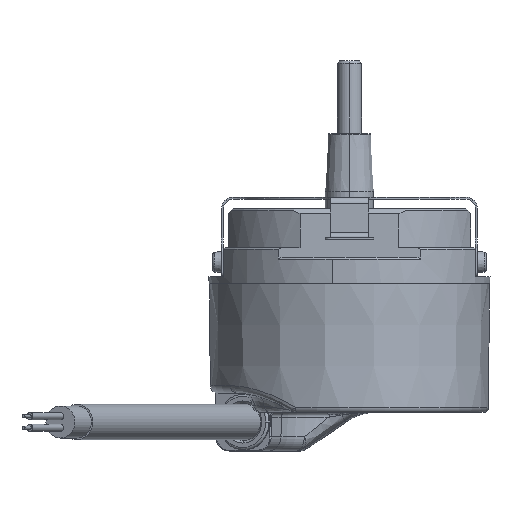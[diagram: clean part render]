
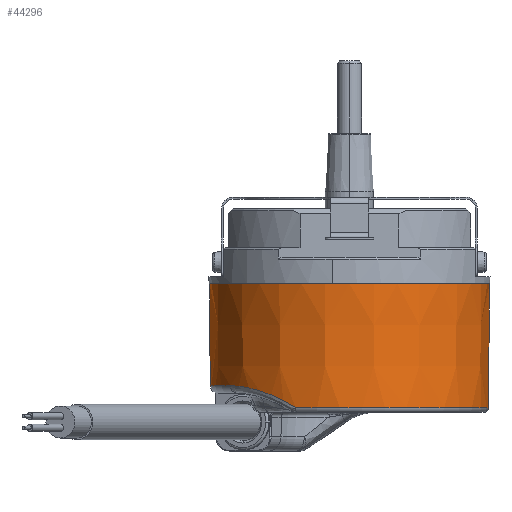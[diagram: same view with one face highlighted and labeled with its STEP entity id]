
A CAD part, left-side view. The second image highlights one B-rep face of the part: STEP entity #44296.
In plain terms, the highlighted conical face has half-angle 0.5 degrees and reference radius 29 mm.
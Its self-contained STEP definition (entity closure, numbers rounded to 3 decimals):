
#1183 = EDGE_CURVE ( 'NONE', #5836, #19278, #87363, .T. ) ;
#4397 = CARTESIAN_POINT ( 'NONE',  ( 0., 29., 19. ) ) ;
#5836 = VERTEX_POINT ( 'NONE', #47061 ) ;
#6390 = CARTESIAN_POINT ( 'NONE',  ( 0., 0., -18.009 ) ) ;
#11009 = EDGE_LOOP ( 'NONE', ( #22611, #80948, #88995, #95748, #36894, #33223 ) ) ;
#13164 = EDGE_CURVE ( 'NONE', #19278, #92280, #76114, .T. ) ;
#13237 = LINE ( 'NONE', #4397, #55265 ) ;
#14376 = DIRECTION ( 'NONE',  ( 0., 1., 0. ) ) ;
#16106 = FACE_OUTER_BOUND ( 'NONE', #11009, .T. ) ;
#16780 = AXIS2_PLACEMENT_3D ( 'NONE', #27699, #82775, #35619 ) ;
#16981 = DIRECTION ( 'NONE',  ( 0., -0.009, 1. ) ) ;
#19278 = VERTEX_POINT ( 'NONE', #54227 ) ;
#21353 = AXIS2_PLACEMENT_3D ( 'NONE', #64503, #56239, #56917 ) ;
#21704 = DIRECTION ( 'NONE',  ( 0., 0., 1. ) ) ;
#22526 = CARTESIAN_POINT ( 'NONE',  ( 0., -28.9, 7.5 ) ) ;
#22611 = ORIENTED_EDGE ( 'NONE', *, *, #53077, .F. ) ;
#24715 = CONICAL_SURFACE ( 'NONE', #21353, 29., 0.009 ) ;
#27684 = CARTESIAN_POINT ( 'NONE',  ( 0., 28.716, -13.513 ) ) ;
#27699 = CARTESIAN_POINT ( 'NONE',  ( 0., 0., 7.5 ) ) ;
#33223 = ORIENTED_EDGE ( 'NONE', *, *, #59772, .F. ) ;
#33282 = EDGE_CURVE ( 'NONE', #92280, #51071, #42381, .T. ) ;
#35619 = DIRECTION ( 'NONE',  ( 0., -1., 0. ) ) ;
#36894 = ORIENTED_EDGE ( 'NONE', *, *, #33282, .T. ) ;
#40279 = CARTESIAN_POINT ( 'NONE',  ( -16.214, 23.753, -13.513 ) ) ;
#40962 = CARTESIAN_POINT ( 'NONE',  ( -17.481, 22.835, -13.587 ) ) ;
#41432 = CARTESIAN_POINT ( 'NONE',  ( -14.863, 24.57, -13.513 ) ) ;
#41527 = CARTESIAN_POINT ( 'NONE',  ( -18.961, 21.566, -13.798 ) ) ;
#41550 = CARTESIAN_POINT ( 'NONE',  ( -19.252, 21.306, -13.846 ) ) ;
#41769 = CARTESIAN_POINT ( 'NONE',  ( -19.823, 20.775, -13.955 ) ) ;
#41866 = CIRCLE ( 'NONE', #49365, 28.716 ) ;
#41986 = CARTESIAN_POINT ( 'NONE',  ( -20.104, 20.503, -14.016 ) ) ;
#42381 = LINE ( 'NONE', #56346, #84273 ) ;
#43253 = CARTESIAN_POINT ( 'NONE',  ( -20.921, 19.677, -14.216 ) ) ;
#43491 = CARTESIAN_POINT ( 'NONE',  ( -21.435, 19.112, -14.374 ) ) ;
#44161 = CARTESIAN_POINT ( 'NONE',  ( -22.895, 17.379, -14.923 ) ) ;
#44296 = ADVANCED_FACE ( 'NONE', ( #16106 ), #24715, .T. ) ;
#44478 = CARTESIAN_POINT ( 'NONE',  ( -23.755, 16.172, -15.389 ) ) ;
#44958 = CARTESIAN_POINT ( 'NONE',  ( -24.887, 14.297, -16.255 ) ) ;
#45659 = EDGE_CURVE ( 'NONE', #79432, #5836, #41866, .T. ) ;
#45841 = CARTESIAN_POINT ( 'NONE',  ( -25.238, 13.661, -16.572 ) ) ;
#46318 = CARTESIAN_POINT ( 'NONE',  ( -25.877, 12.394, -17.253 ) ) ;
#46866 = CARTESIAN_POINT ( 'NONE',  ( -26.167, 11.76, -17.619 ) ) ;
#47001 = CARTESIAN_POINT ( 'NONE',  ( -26.431, 11.126, -18.009 ) ) ;
#47061 = CARTESIAN_POINT ( 'NONE',  ( -14.863, 24.57, -13.513 ) ) ;
#49365 = AXIS2_PLACEMENT_3D ( 'NONE', #68927, #21704, #76886 ) ;
#51071 = VERTEX_POINT ( 'NONE', #22526 ) ;
#53077 = EDGE_CURVE ( 'NONE', #79432, #86023, #13237, .T. ) ;
#54227 = CARTESIAN_POINT ( 'NONE',  ( -26.431, 11.126, -18.009 ) ) ;
#55265 = VECTOR ( 'NONE', #67572, 1000. ) ;
#56239 = DIRECTION ( 'NONE',  ( 0., 0., 1. ) ) ;
#56346 = CARTESIAN_POINT ( 'NONE',  ( 0., -29., 19. ) ) ;
#56917 = DIRECTION ( 'NONE',  ( 0., -1., 0. ) ) ;
#59772 = EDGE_CURVE ( 'NONE', #86023, #51071, #99216, .T. ) ;
#60320 = CARTESIAN_POINT ( 'NONE',  ( 0., 28.9, 7.5 ) ) ;
#61616 = DIRECTION ( 'NONE',  ( 0., 0., 1. ) ) ;
#64503 = CARTESIAN_POINT ( 'NONE',  ( 0., 0., 19. ) ) ;
#67572 = DIRECTION ( 'NONE',  ( 0., 0.009, 1. ) ) ;
#68277 = CARTESIAN_POINT ( 'NONE',  ( 0., -28.677, -18.009 ) ) ;
#68927 = CARTESIAN_POINT ( 'NONE',  ( 0., 0., -13.513 ) ) ;
#76114 = CIRCLE ( 'NONE', #81688, 28.677 ) ;
#76886 = DIRECTION ( 'NONE',  ( 0., -1., 0. ) ) ;
#79432 = VERTEX_POINT ( 'NONE', #27684 ) ;
#80948 = ORIENTED_EDGE ( 'NONE', *, *, #45659, .T. ) ;
#81688 = AXIS2_PLACEMENT_3D ( 'NONE', #6390, #61616, #14376 ) ;
#82775 = DIRECTION ( 'NONE',  ( 0., 0., 1. ) ) ;
#84273 = VECTOR ( 'NONE', #16981, 1000. ) ;
#86023 = VERTEX_POINT ( 'NONE', #60320 ) ;
#87363 = B_SPLINE_CURVE_WITH_KNOTS ( 'NONE', 3,
 ( #41432, #40279, #40962, #41527, #41550, #41769, #41986, #43253, #43491, #44161, #44478, #44958, #45841, #46318, #46866, #47001 ),
 .UNSPECIFIED., .F., .F.,
 ( 4, 2, 2, 2, 2, 2, 2, 4 ),
 ( 0., 0.005, 0.006, 0.007, 0.009, 0.014, 0.016, 0.019 ),
 .UNSPECIFIED. ) ;
#88995 = ORIENTED_EDGE ( 'NONE', *, *, #1183, .T. ) ;
#92280 = VERTEX_POINT ( 'NONE', #68277 ) ;
#95748 = ORIENTED_EDGE ( 'NONE', *, *, #13164, .T. ) ;
#99216 = CIRCLE ( 'NONE', #16780, 28.9 ) ;
